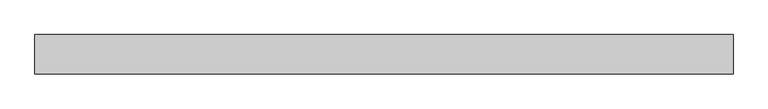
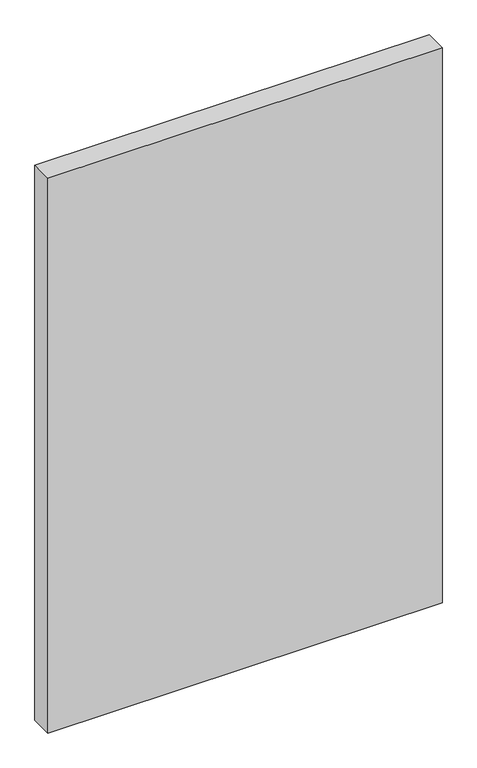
"""IFC4 building model written with IfcOpenShell, lengths in millimetres: plate geometry, システム パネルなし : なし."""

from ifc_helpers import new_model, si_unit, origin, origin_with_axes, place, context, project, spatial, polyline, outline, extrude, source, transform, mapped, element, save


def plate_787ad437(model_context):
    return source(origin(), model_context, "Body", "SweptSolid", [
        extrude(outline(polyline([(885.0000342, -50.0), (-885.0000342, -50.0), (-885.0000342, 50.0), (885.0000342, 50.0), (885.0000342, -50.0)])), origin_with_axes(), (0.0, 0.0, 1.0), 2633.0),
    ])


if __name__ == "__main__":
    model = new_model("IFC4")
    model_context = context("Model", 3, world=origin())
    ifc_project = project(units=[si_unit("LENGTHUNIT", "METRE", prefix="MILLI")], contexts=[model_context])
    site = spatial("IfcSite", under=ifc_project)
    building = spatial("IfcBuilding", under=site)
    placement = place(None, origin())
    plate_shape = plate_787ad437(model_context)
    element("IfcPlate", 1, ObjectType="システム パネルなし : なし", at=placement, inside=building, context=model_context, shape_type="MappedRepresentation", body=[
        mapped(plate_shape, transform((0.0, 0.0, 0.0), x_axis=(1.0, 0.0, 0.0), y_axis=(0.0, 1.0, 0.0), z_axis=(0.0, 0.0, 1.0))),
    ])
    save(model, "model.ifc")
